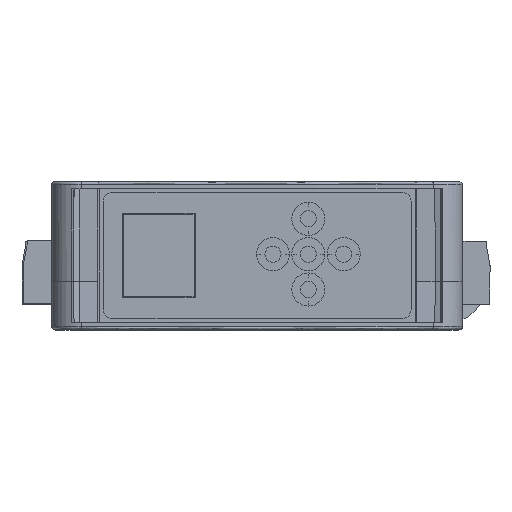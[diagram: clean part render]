
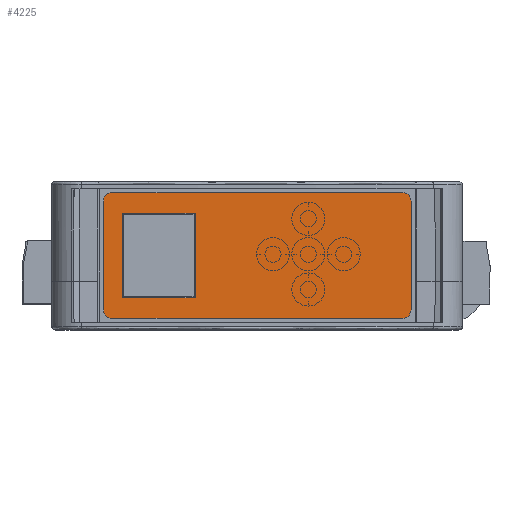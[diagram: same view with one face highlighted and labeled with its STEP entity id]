
A CAD part, top view. The second image highlights one B-rep face of the part: STEP entity #4225.
In plain terms, the highlighted planar face has unit normal (0, 0, 1) as drawn and (0, 1, 0) by its records, which use the part's own axes.
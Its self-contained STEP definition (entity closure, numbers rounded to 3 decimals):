
#479 = EDGE_CURVE ( 'NONE', #13984, #13776, #14054, .T. ) ;
#534 = CIRCLE ( 'NONE', #3312, 2. ) ;
#612 = VECTOR ( 'NONE', #2456, 1000. ) ;
#669 = DIRECTION ( 'NONE',  ( 0., 1., 0. ) ) ;
#1281 = CARTESIAN_POINT ( 'NONE',  ( -36.95, 2., -12.9 ) ) ;
#1388 = EDGE_CURVE ( 'NONE', #16476, #18344, #10883, .T. ) ;
#1407 = VECTOR ( 'NONE', #9570, 1000. ) ;
#1436 = CARTESIAN_POINT ( 'NONE',  ( 36.1, 2., -14.9 ) ) ;
#1531 = DIRECTION ( 'NONE',  ( 0., 0., -1. ) ) ;
#1596 = VECTOR ( 'NONE', #7157, 1000. ) ;
#1866 = CARTESIAN_POINT ( 'NONE',  ( -32.4, 2., -9.75 ) ) ;
#1868 = ORIENTED_EDGE ( 'NONE', *, *, #12743, .T. ) ;
#2231 = DIRECTION ( 'NONE',  ( 0., 1., 0. ) ) ;
#2456 = DIRECTION ( 'NONE',  ( -1., 0., 0. ) ) ;
#2957 = LINE ( 'NONE', #1436, #13340 ) ;
#3312 = AXIS2_PLACEMENT_3D ( 'NONE', #17057, #18717, #18386 ) ;
#3635 = AXIS2_PLACEMENT_3D ( 'NONE', #15144, #2231, #8882 ) ;
#3910 = VERTEX_POINT ( 'NONE', #1281 ) ;
#3980 = CARTESIAN_POINT ( 'NONE',  ( -32.15, 2., 10. ) ) ;
#4225 = ADVANCED_FACE ( 'NONE', ( #20507, #5431 ), #20279, .T. ) ;
#4704 = AXIS2_PLACEMENT_3D ( 'NONE', #7152, #11993, #13745 ) ;
#4811 = ORIENTED_EDGE ( 'NONE', *, *, #5054, .T. ) ;
#5054 = EDGE_CURVE ( 'NONE', #3910, #6002, #11315, .T. ) ;
#5233 = EDGE_CURVE ( 'NONE', #6002, #16476, #8224, .T. ) ;
#5431 = FACE_OUTER_BOUND ( 'NONE', #9108, .T. ) ;
#5999 = CARTESIAN_POINT ( 'NONE',  ( -15.2, 2., 10. ) ) ;
#6002 = VERTEX_POINT ( 'NONE', #18520 ) ;
#6054 = CIRCLE ( 'NONE', #3635, 2. ) ;
#6103 = CARTESIAN_POINT ( 'NONE',  ( -34.95, 2., -12.9 ) ) ;
#6289 = ORIENTED_EDGE ( 'NONE', *, *, #7555, .T. ) ;
#6560 = VERTEX_POINT ( 'NONE', #7881 ) ;
#6690 = VECTOR ( 'NONE', #15812, 1000. ) ;
#7152 = CARTESIAN_POINT ( 'NONE',  ( 0., 2., 0. ) ) ;
#7157 = DIRECTION ( 'NONE',  ( 1., 0., 0. ) ) ;
#7309 = DIRECTION ( 'NONE',  ( 0., 0., 1. ) ) ;
#7555 = EDGE_CURVE ( 'NONE', #8156, #21546, #534, .T. ) ;
#7881 = CARTESIAN_POINT ( 'NONE',  ( -32.4, 2., -10. ) ) ;
#7934 = EDGE_CURVE ( 'NONE', #6560, #11087, #12203, .T. ) ;
#8156 = VERTEX_POINT ( 'NONE', #18038 ) ;
#8224 = CIRCLE ( 'NONE', #19143, 2. ) ;
#8325 = ORIENTED_EDGE ( 'NONE', *, *, #15598, .T. ) ;
#8882 = DIRECTION ( 'NONE',  ( 0., 0., 1. ) ) ;
#9018 = AXIS2_PLACEMENT_3D ( 'NONE', #6103, #669, #7309 ) ;
#9108 = EDGE_LOOP ( 'NONE', ( #20727, #14725, #1868, #6289, #12447, #14632, #4811, #15558 ) ) ;
#9126 = CARTESIAN_POINT ( 'NONE',  ( -36.2, 2., 14.9 ) ) ;
#9558 = CARTESIAN_POINT ( 'NONE',  ( -36.95, 2., -14.9 ) ) ;
#9570 = DIRECTION ( 'NONE',  ( 0., 0., 1. ) ) ;
#9641 = DIRECTION ( 'NONE',  ( 0., 0., -1. ) ) ;
#9965 = CARTESIAN_POINT ( 'NONE',  ( -32.4, 2., 10. ) ) ;
#9987 = VECTOR ( 'NONE', #19364, 1000. ) ;
#10551 = EDGE_CURVE ( 'NONE', #11087, #13984, #11225, .T. ) ;
#10627 = EDGE_CURVE ( 'NONE', #18344, #12193, #6054, .T. ) ;
#10883 = LINE ( 'NONE', #9126, #14331 ) ;
#10927 = CARTESIAN_POINT ( 'NONE',  ( -34.95, 2., -14.9 ) ) ;
#11087 = VERTEX_POINT ( 'NONE', #19332 ) ;
#11225 = LINE ( 'NONE', #17922, #1407 ) ;
#11315 = LINE ( 'NONE', #9558, #9987 ) ;
#11993 = DIRECTION ( 'NONE',  ( 0., 1., 0. ) ) ;
#12193 = VERTEX_POINT ( 'NONE', #18503 ) ;
#12203 = LINE ( 'NONE', #18831, #1596 ) ;
#12447 = ORIENTED_EDGE ( 'NONE', *, *, #17451, .T. ) ;
#12726 = DIRECTION ( 'NONE',  ( 1., 0., 0. ) ) ;
#12743 = EDGE_CURVE ( 'NONE', #12193, #8156, #2957, .T. ) ;
#13153 = DIRECTION ( 'NONE',  ( 0., 0., 1. ) ) ;
#13340 = VECTOR ( 'NONE', #9641, 1000. ) ;
#13745 = DIRECTION ( 'NONE',  ( 0., 0., 1. ) ) ;
#13776 = VERTEX_POINT ( 'NONE', #9965 ) ;
#13984 = VERTEX_POINT ( 'NONE', #5999 ) ;
#14054 = LINE ( 'NONE', #3980, #612 ) ;
#14119 = EDGE_CURVE ( 'NONE', #19236, #3910, #18501, .T. ) ;
#14331 = VECTOR ( 'NONE', #12726, 1000. ) ;
#14363 = LINE ( 'NONE', #19457, #6690 ) ;
#14632 = ORIENTED_EDGE ( 'NONE', *, *, #14119, .T. ) ;
#14725 = ORIENTED_EDGE ( 'NONE', *, *, #10627, .T. ) ;
#15004 = LINE ( 'NONE', #1866, #20586 ) ;
#15027 = CARTESIAN_POINT ( 'NONE',  ( -34.95, 2., 14.9 ) ) ;
#15144 = CARTESIAN_POINT ( 'NONE',  ( 34.1, 2., 12.9 ) ) ;
#15479 = CARTESIAN_POINT ( 'NONE',  ( 34.1, 2., 14.9 ) ) ;
#15558 = ORIENTED_EDGE ( 'NONE', *, *, #5233, .T. ) ;
#15598 = EDGE_CURVE ( 'NONE', #13776, #6560, #15004, .T. ) ;
#15630 = ORIENTED_EDGE ( 'NONE', *, *, #7934, .T. ) ;
#15812 = DIRECTION ( 'NONE',  ( -1., 0., 0. ) ) ;
#16476 = VERTEX_POINT ( 'NONE', #15027 ) ;
#16914 = ORIENTED_EDGE ( 'NONE', *, *, #10551, .T. ) ;
#17057 = CARTESIAN_POINT ( 'NONE',  ( 34.1, 2., -12.9 ) ) ;
#17451 = EDGE_CURVE ( 'NONE', #21546, #19236, #14363, .T. ) ;
#17922 = CARTESIAN_POINT ( 'NONE',  ( -15.2, 2., 9.75 ) ) ;
#18038 = CARTESIAN_POINT ( 'NONE',  ( 36.1, 2., -12.9 ) ) ;
#18235 = CARTESIAN_POINT ( 'NONE',  ( -34.95, 2., 12.9 ) ) ;
#18344 = VERTEX_POINT ( 'NONE', #15479 ) ;
#18386 = DIRECTION ( 'NONE',  ( 0., 0., 1. ) ) ;
#18501 = CIRCLE ( 'NONE', #9018, 2. ) ;
#18503 = CARTESIAN_POINT ( 'NONE',  ( 36.1, 2., 12.9 ) ) ;
#18520 = CARTESIAN_POINT ( 'NONE',  ( -36.95, 2., 12.9 ) ) ;
#18717 = DIRECTION ( 'NONE',  ( 0., 1., 0. ) ) ;
#18757 = EDGE_LOOP ( 'NONE', ( #21110, #8325, #15630, #16914 ) ) ;
#18831 = CARTESIAN_POINT ( 'NONE',  ( -15.45, 2., -10. ) ) ;
#19143 = AXIS2_PLACEMENT_3D ( 'NONE', #18235, #21596, #13153 ) ;
#19236 = VERTEX_POINT ( 'NONE', #10927 ) ;
#19332 = CARTESIAN_POINT ( 'NONE',  ( -15.2, 2., -10. ) ) ;
#19364 = DIRECTION ( 'NONE',  ( 0., 0., 1. ) ) ;
#19381 = CARTESIAN_POINT ( 'NONE',  ( 34.1, 2., -14.9 ) ) ;
#19457 = CARTESIAN_POINT ( 'NONE',  ( -36.2, 2., -14.9 ) ) ;
#20279 = PLANE ( 'NONE',  #4704 ) ;
#20507 = FACE_BOUND ( 'NONE', #18757, .T. ) ;
#20586 = VECTOR ( 'NONE', #1531, 1000. ) ;
#20727 = ORIENTED_EDGE ( 'NONE', *, *, #1388, .T. ) ;
#21110 = ORIENTED_EDGE ( 'NONE', *, *, #479, .T. ) ;
#21546 = VERTEX_POINT ( 'NONE', #19381 ) ;
#21596 = DIRECTION ( 'NONE',  ( 0., 1., 0. ) ) ;
